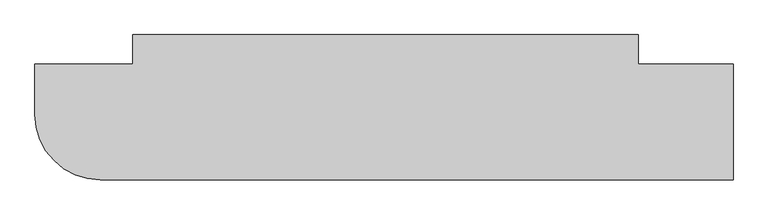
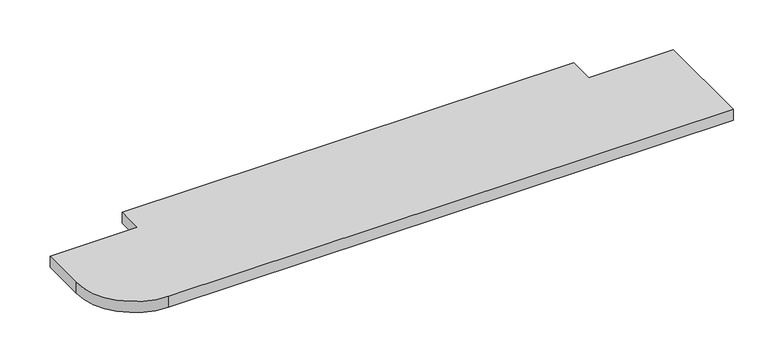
"""IFC4 building model written with IfcOpenShell, lengths in millimetres: furniture geometry, キッチンカウンター : キッチンカウンター."""

from ifc_helpers import new_model, si_unit, point, frame, frame_2d, origin, place, context, project, spatial, polyline, circle_curve, trimmed, segment, composite_curve, outline, extrude, source, transform, mapped, element, save


def furniture_17ae23b8(model_context):
    return source(origin(), model_context, "Body", "SweptSolid", [
        extrude(outline(composite_curve([segment(polyline([(-1840.0, 0.0), (-290.0, 0.0), (-290.0, -90.0), (0.0, -90.0), (0.0, -445.0), (-1940.0, -445.0)]), True, "CONTINUOUS"), segment(trimmed(circle_curve(frame_2d((-1940.0, -245.0)), 200.0), [point((-1940.0, -445.0))], [point((-2140.0, -245.0))], False, "CARTESIAN"), True, "CONTINUOUS"), segment(polyline([(-2140.0, -245.0), (-2140.0, -90.0), (-1840.0, -90.0), (-1840.0, 0.0)]), True, "CONTINUOUS")], self_intersect=False)), frame((0.0, 0.0, 1060.0), z_axis=(0.0, 0.0, 1.0), x_axis=(1.0, 0.0, 0.0)), (0.0, 0.0, 1.0), 40.0),
    ])


if __name__ == "__main__":
    model = new_model("IFC4")
    model_context = context("Model", 3, world=origin())
    ifc_project = project(units=[si_unit("LENGTHUNIT", "METRE", prefix="MILLI")], contexts=[model_context])
    site = spatial("IfcSite", under=ifc_project)
    building = spatial("IfcBuilding", under=site)
    placement = place(None, origin())
    furniture_shape = furniture_17ae23b8(model_context)
    element("IfcFurniture", 1, ObjectType="キッチンカウンター : キッチンカウンター", at=placement, inside=building, context=model_context, shape_type="MappedRepresentation", body=[
        mapped(furniture_shape, transform((0.0, 0.0, 0.0), x_axis=(1.0, 0.0, 0.0), y_axis=(0.0, 1.0, 0.0), z_axis=(0.0, 0.0, 1.0))),
    ])
    save(model, "model.ifc")
